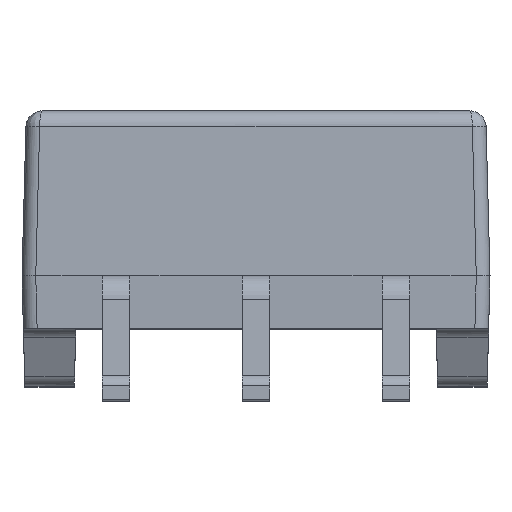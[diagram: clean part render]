
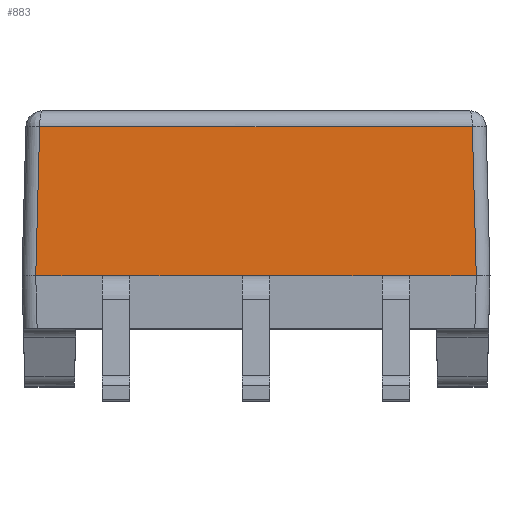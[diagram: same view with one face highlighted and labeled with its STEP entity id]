
A CAD part, top view. The second image highlights one B-rep face of the part: STEP entity #883.
In plain terms, the highlighted planar face has unit normal (0, 0.026, 1).
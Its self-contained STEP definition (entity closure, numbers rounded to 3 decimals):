
#45 = VECTOR ( 'NONE', #3051, 1000. ) ;
#117 = FACE_OUTER_BOUND ( 'NONE', #4431, .T. ) ;
#333 = LINE ( 'NONE', #5440, #3215 ) ;
#413 = EDGE_CURVE ( 'NONE', #4668, #1634, #4499, .T. ) ;
#424 = CARTESIAN_POINT ( 'NONE',  ( 0.25, 0., 6.75 ) ) ;
#453 = VECTOR ( 'NONE', #5129, 1000. ) ;
#470 = LINE ( 'NONE', #2634, #2306 ) ;
#525 = DIRECTION ( 'NONE',  ( 1., 0., 0. ) ) ;
#597 = CARTESIAN_POINT ( 'NONE',  ( -4.25, 0., 6.75 ) ) ;
#598 = ORIENTED_EDGE ( 'NONE', *, *, #4203, .T. ) ;
#602 = ORIENTED_EDGE ( 'NONE', *, *, #2667, .T. ) ;
#609 = EDGE_CURVE ( 'NONE', #3482, #4508, #627, .T. ) ;
#627 = LINE ( 'NONE', #1912, #4558 ) ;
#715 = ORIENTED_EDGE ( 'NONE', *, *, #413, .T. ) ;
#739 = EDGE_CURVE ( 'NONE', #2626, #3482, #2854, .T. ) ;
#796 = CARTESIAN_POINT ( 'NONE',  ( 4., 0., 6.75 ) ) ;
#883 = ADVANCED_FACE ( 'NONE', ( #117 ), #4065, .T. ) ;
#987 = DIRECTION ( 'NONE',  ( 0., -1., 0.026 ) ) ;
#995 = ORIENTED_EDGE ( 'NONE', *, *, #4338, .T. ) ;
#1008 = VERTEX_POINT ( 'NONE', #3767 ) ;
#1037 = VERTEX_POINT ( 'NONE', #796 ) ;
#1301 = VECTOR ( 'NONE', #525, 1000. ) ;
#1315 = LINE ( 'NONE', #3518, #45 ) ;
#1400 = VECTOR ( 'NONE', #2760, 1000. ) ;
#1408 = EDGE_CURVE ( 'NONE', #3062, #3169, #333, .T. ) ;
#1426 = ORIENTED_EDGE ( 'NONE', *, *, #1408, .T. ) ;
#1452 = CARTESIAN_POINT ( 'NONE',  ( -4., -0.007, 6.75 ) ) ;
#1507 = CARTESIAN_POINT ( 'NONE',  ( -2.79, 0., 6.75 ) ) ;
#1634 = VERTEX_POINT ( 'NONE', #1507 ) ;
#1732 = ORIENTED_EDGE ( 'NONE', *, *, #4405, .T. ) ;
#1885 = DIRECTION ( 'NONE',  ( 1., 0., 0. ) ) ;
#1912 = CARTESIAN_POINT ( 'NONE',  ( -0.25, 0., 6.75 ) ) ;
#2102 = DIRECTION ( 'NONE',  ( 1., 0., 0. ) ) ;
#2126 = CARTESIAN_POINT ( 'NONE',  ( -2.29, 0., 6.75 ) ) ;
#2139 = CARTESIAN_POINT ( 'NONE',  ( -4.25, 0., 6.75 ) ) ;
#2192 = DIRECTION ( 'NONE',  ( 1., 0., 0. ) ) ;
#2301 = ORIENTED_EDGE ( 'NONE', *, *, #2949, .T. ) ;
#2306 = VECTOR ( 'NONE', #2102, 1000. ) ;
#2396 = VECTOR ( 'NONE', #3054, 1000. ) ;
#2626 = VERTEX_POINT ( 'NONE', #2126 ) ;
#2634 = CARTESIAN_POINT ( 'NONE',  ( -2.79, 0., 6.75 ) ) ;
#2667 = EDGE_CURVE ( 'NONE', #3211, #1008, #3465, .T. ) ;
#2704 = CARTESIAN_POINT ( 'NONE',  ( -4.25, 0., 6.75 ) ) ;
#2760 = DIRECTION ( 'NONE',  ( -0.026, -0.999, 0.026 ) ) ;
#2850 = LINE ( 'NONE', #1452, #1400 ) ;
#2854 = LINE ( 'NONE', #4593, #453 ) ;
#2949 = EDGE_CURVE ( 'NONE', #1634, #2626, #470, .T. ) ;
#3051 = DIRECTION ( 'NONE',  ( -0.026, 0.999, -0.026 ) ) ;
#3054 = DIRECTION ( 'NONE',  ( 1., 0., 0. ) ) ;
#3062 = VERTEX_POINT ( 'NONE', #3867 ) ;
#3169 = VERTEX_POINT ( 'NONE', #3551 ) ;
#3175 = CARTESIAN_POINT ( 'NONE',  ( -4., 0., 6.75 ) ) ;
#3211 = VERTEX_POINT ( 'NONE', #3231 ) ;
#3215 = VECTOR ( 'NONE', #3805, 1000. ) ;
#3231 = CARTESIAN_POINT ( 'NONE',  ( 2.29, 0., 6.75 ) ) ;
#3465 = LINE ( 'NONE', #5591, #2396 ) ;
#3482 = VERTEX_POINT ( 'NONE', #4960 ) ;
#3518 = CARTESIAN_POINT ( 'NONE',  ( 3.994, 0.216, 6.744 ) ) ;
#3551 = CARTESIAN_POINT ( 'NONE',  ( -3.929, 2.708, 6.679 ) ) ;
#3687 = AXIS2_PLACEMENT_3D ( 'NONE', #2704, #4552, #987 ) ;
#3767 = CARTESIAN_POINT ( 'NONE',  ( 2.79, 0., 6.75 ) ) ;
#3805 = DIRECTION ( 'NONE',  ( -1., 0., 0. ) ) ;
#3867 = CARTESIAN_POINT ( 'NONE',  ( 3.929, 2.708, 6.679 ) ) ;
#4007 = VECTOR ( 'NONE', #2192, 1000. ) ;
#4065 = PLANE ( 'NONE',  #3687 ) ;
#4067 = DIRECTION ( 'NONE',  ( 1., 0., 0. ) ) ;
#4099 = ORIENTED_EDGE ( 'NONE', *, *, #5443, .T. ) ;
#4203 = EDGE_CURVE ( 'NONE', #1037, #3062, #1315, .T. ) ;
#4267 = LINE ( 'NONE', #2139, #4007 ) ;
#4338 = EDGE_CURVE ( 'NONE', #3169, #4668, #2850, .T. ) ;
#4357 = ORIENTED_EDGE ( 'NONE', *, *, #609, .T. ) ;
#4405 = EDGE_CURVE ( 'NONE', #1008, #1037, #4267, .T. ) ;
#4431 = EDGE_LOOP ( 'NONE', ( #1732, #598, #1426, #995, #715, #2301, #5161, #4357, #4099, #602 ) ) ;
#4451 = CARTESIAN_POINT ( 'NONE',  ( -4.25, 0., 6.75 ) ) ;
#4499 = LINE ( 'NONE', #597, #5350 ) ;
#4508 = VERTEX_POINT ( 'NONE', #424 ) ;
#4512 = LINE ( 'NONE', #4451, #1301 ) ;
#4552 = DIRECTION ( 'NONE',  ( 0., 0.026, 1. ) ) ;
#4558 = VECTOR ( 'NONE', #1885, 1000. ) ;
#4593 = CARTESIAN_POINT ( 'NONE',  ( -4.25, 0., 6.75 ) ) ;
#4668 = VERTEX_POINT ( 'NONE', #3175 ) ;
#4960 = CARTESIAN_POINT ( 'NONE',  ( -0.25, 0., 6.75 ) ) ;
#5129 = DIRECTION ( 'NONE',  ( 1., 0., 0. ) ) ;
#5161 = ORIENTED_EDGE ( 'NONE', *, *, #739, .T. ) ;
#5350 = VECTOR ( 'NONE', #4067, 1000. ) ;
#5440 = CARTESIAN_POINT ( 'NONE',  ( -4.171, 2.708, 6.679 ) ) ;
#5443 = EDGE_CURVE ( 'NONE', #4508, #3211, #4512, .T. ) ;
#5591 = CARTESIAN_POINT ( 'NONE',  ( 2.29, 0., 6.75 ) ) ;
